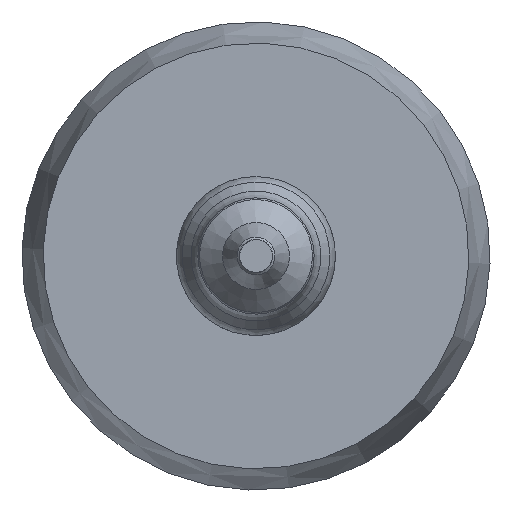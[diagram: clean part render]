
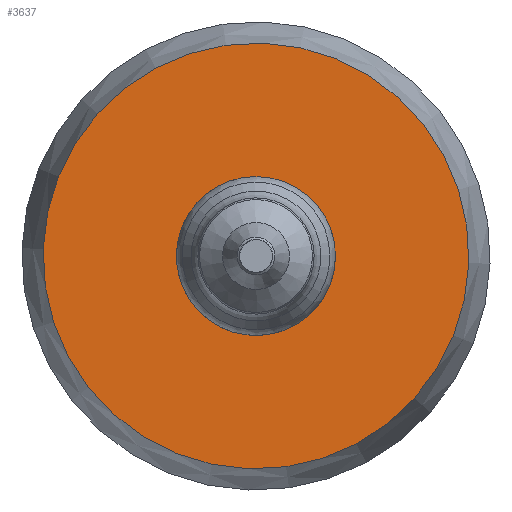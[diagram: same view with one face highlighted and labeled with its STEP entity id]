
A CAD part, left-side view. The second image highlights one B-rep face of the part: STEP entity #3637.
In plain terms, the highlighted planar face has unit normal (-1, 0, 0).
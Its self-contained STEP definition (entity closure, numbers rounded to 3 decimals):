
#583=ORIENTED_EDGE('',*,*,#1310,.T.);
#584=ORIENTED_EDGE('',*,*,#1309,.F.);
#1309=EDGE_CURVE('',#1673,#1673,#1930,.F.);
#1310=EDGE_CURVE('',#1674,#1674,#1931,.F.);
#1673=VERTEX_POINT('',#4420);
#1674=VERTEX_POINT('',#4423);
#1930=CIRCLE('',#3810,25.46);
#1931=CIRCLE('',#3812,9.5);
#1992=EDGE_LOOP('',(#583));
#1993=EDGE_LOOP('',(#584));
#2215=FACE_BOUND('',#1992,.T.);
#2216=FACE_BOUND('',#1993,.T.);
#2435=PLANE('',#3811);
#3637=ADVANCED_FACE('',(#2215,#2216),#2435,.T.);
#3810=AXIS2_PLACEMENT_3D('',#4419,#3976,#3977);
#3811=AXIS2_PLACEMENT_3D('',#4421,#3978,#3979);
#3812=AXIS2_PLACEMENT_3D('',#4422,#3980,#3981);
#3976=DIRECTION('',(-1.,0.,0.));
#3977=DIRECTION('',(0.,-0.744,-0.668));
#3978=DIRECTION('',(-1.,0.,0.));
#3979=DIRECTION('',(0.,-0.744,-0.668));
#3980=DIRECTION('',(-1.,0.,0.));
#3981=DIRECTION('',(0.,0.,1.));
#4419=CARTESIAN_POINT('',(165.109,0.,0.));
#4420=CARTESIAN_POINT('',(165.109,-18.95,-17.004));
#4421=CARTESIAN_POINT('',(165.109,0.,0.));
#4422=CARTESIAN_POINT('',(165.109,0.,0.));
#4423=CARTESIAN_POINT('',(165.109,0.,9.5));
